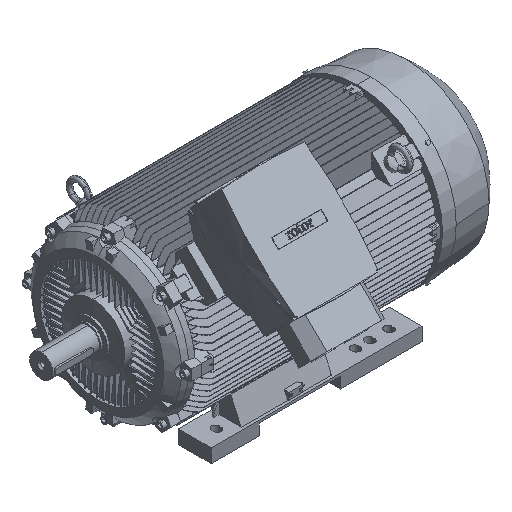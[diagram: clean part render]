
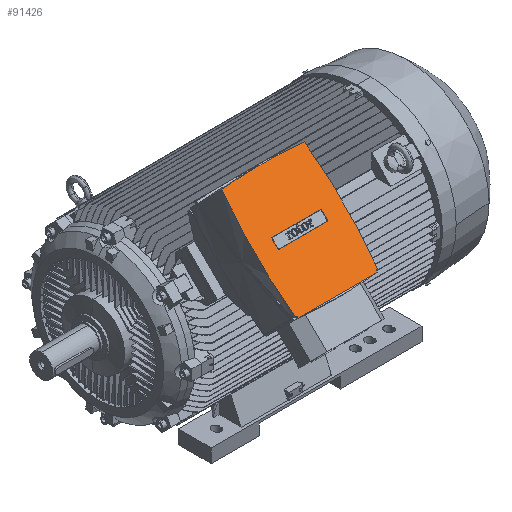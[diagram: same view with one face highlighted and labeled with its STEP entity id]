
A CAD part, isometric view. The second image highlights one B-rep face of the part: STEP entity #91426.
In plain terms, the highlighted planar face has unit normal (0, -0.707, 0.707).
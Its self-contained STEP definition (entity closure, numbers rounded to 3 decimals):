
#11 = VECTOR ( 'NONE', #14089, 1000. ) ;
#233 = LINE ( 'NONE', #12937, #2497 ) ;
#1615 = EDGE_CURVE ( 'NONE', #85980, #37499, #39676, .T. ) ;
#2497 = VECTOR ( 'NONE', #56583, 1000. ) ;
#2660 = VERTEX_POINT ( 'NONE', #31054 ) ;
#3291 = CIRCLE ( 'NONE', #24230, 1724.8 ) ;
#3695 = EDGE_CURVE ( 'NONE', #63485, #86808, #38859, .T. ) ;
#4154 = CARTESIAN_POINT ( 'NONE',  ( 245., -432.396, 366.635 ) ) ;
#5257 = CIRCLE ( 'NONE', #16909, 2020.86 ) ;
#5658 = DIRECTION ( 'NONE',  ( -1., 0., 0. ) ) ;
#6164 = VERTEX_POINT ( 'NONE', #84079 ) ;
#6724 = EDGE_CURVE ( 'NONE', #62580, #91029, #3291, .T. ) ;
#7499 = CARTESIAN_POINT ( 'NONE',  ( 100., -554.578, 244.453 ) ) ;
#8530 = CARTESIAN_POINT ( 'NONE',  ( 335., -432.396, 366.635 ) ) ;
#10706 = CARTESIAN_POINT ( 'NONE',  ( 390., -554.578, 244.453 ) ) ;
#12237 = AXIS2_PLACEMENT_3D ( 'NONE', #47653, #76095, #25231 ) ;
#12413 = LINE ( 'NONE', #47461, #33643 ) ;
#12937 = CARTESIAN_POINT ( 'NONE',  ( 245., -407.647, 391.384 ) ) ;
#14089 = DIRECTION ( 'NONE',  ( 0., -0.707, -0.707 ) ) ;
#14330 = CIRCLE ( 'NONE', #41366, 2020.86 ) ;
#15614 = ORIENTED_EDGE ( 'NONE', *, *, #85913, .T. ) ;
#15803 = ORIENTED_EDGE ( 'NONE', *, *, #91983, .F. ) ;
#15908 = CIRCLE ( 'NONE', #79010, 2020.86 ) ;
#16312 = EDGE_LOOP ( 'NONE', ( #78104, #22473, #86305, #22415, #62655, #52825, #57914, #15803, #23387 ) ) ;
#16452 = DIRECTION ( 'NONE',  ( 0., 0.707, 0.707 ) ) ;
#16759 = DIRECTION ( 'NONE',  ( 0., 0.707, -0.707 ) ) ;
#16909 = AXIS2_PLACEMENT_3D ( 'NONE', #62510, #20705, #48164 ) ;
#18103 = DIRECTION ( 'NONE',  ( 0., 0.707, 0.707 ) ) ;
#18182 = DIRECTION ( 'NONE',  ( 0., 0.707, 0.707 ) ) ;
#19737 = PLANE ( 'NONE',  #80201 ) ;
#20705 = DIRECTION ( 'NONE',  ( 0., 0.707, -0.707 ) ) ;
#21804 = VECTOR ( 'NONE', #18103, 1000. ) ;
#22415 = ORIENTED_EDGE ( 'NONE', *, *, #6724, .F. ) ;
#22473 = ORIENTED_EDGE ( 'NONE', *, *, #3695, .T. ) ;
#23387 = ORIENTED_EDGE ( 'NONE', *, *, #57135, .T. ) ;
#23593 = CARTESIAN_POINT ( 'NONE',  ( 245., -1710.746, -911.715 ) ) ;
#24230 = AXIS2_PLACEMENT_3D ( 'NONE', #38973, #16759, #16452 ) ;
#25231 = DIRECTION ( 'NONE',  ( 0., 0.707, 0.707 ) ) ;
#26759 = VERTEX_POINT ( 'NONE', #8530 ) ;
#27966 = ORIENTED_EDGE ( 'NONE', *, *, #1615, .T. ) ;
#28182 = CARTESIAN_POINT ( 'NONE',  ( 93.98, -554.265, 244.766 ) ) ;
#28243 = CARTESIAN_POINT ( 'NONE',  ( 390., -558.614, 240.416 ) ) ;
#30097 = EDGE_CURVE ( 'NONE', #81364, #62580, #14330, .T. ) ;
#30421 = CARTESIAN_POINT ( 'NONE',  ( 335., -416.486, 382.545 ) ) ;
#30964 = CARTESIAN_POINT ( 'NONE',  ( 155., -416.486, 382.545 ) ) ;
#30981 = ORIENTED_EDGE ( 'NONE', *, *, #68906, .T. ) ;
#31054 = CARTESIAN_POINT ( 'NONE',  ( 335., -407.647, 391.384 ) ) ;
#33227 = DIRECTION ( 'NONE',  ( 0., -0.707, 0.707 ) ) ;
#33643 = VECTOR ( 'NONE', #33762, 1000. ) ;
#33762 = DIRECTION ( 'NONE',  ( 1., 0., 0. ) ) ;
#36644 = VERTEX_POINT ( 'NONE', #73491 ) ;
#36805 = CARTESIAN_POINT ( 'NONE',  ( 245., -1710.746, -911.715 ) ) ;
#37008 = VERTEX_POINT ( 'NONE', #28182 ) ;
#37266 = DIRECTION ( 'NONE',  ( 0., -0.707, -0.707 ) ) ;
#37499 = VERTEX_POINT ( 'NONE', #55827 ) ;
#38512 = CIRCLE ( 'NONE', #64522, 2020.86 ) ;
#38791 = CIRCLE ( 'NONE', #12237, 1724.8 ) ;
#38859 = LINE ( 'NONE', #60906, #77951 ) ;
#38973 = CARTESIAN_POINT ( 'NONE',  ( -1318.3, -420.021, 379.009 ) ) ;
#39676 = LINE ( 'NONE', #30964, #21804 ) ;
#40444 = DIRECTION ( 'NONE',  ( 0., 0.707, -0.707 ) ) ;
#41366 = AXIS2_PLACEMENT_3D ( 'NONE', #23593, #80659, #44511 ) ;
#41688 = LINE ( 'NONE', #30421, #63965 ) ;
#43540 = CARTESIAN_POINT ( 'NONE',  ( 396.02, -554.265, 244.766 ) ) ;
#44511 = DIRECTION ( 'NONE',  ( 0., 0.707, 0.707 ) ) ;
#46673 = CARTESIAN_POINT ( 'NONE',  ( 245., 870.703, 1669.734 ) ) ;
#47461 = CARTESIAN_POINT ( 'NONE',  ( 245., -558.614, 240.416 ) ) ;
#47653 = CARTESIAN_POINT ( 'NONE',  ( 1808.3, -420.021, 379.009 ) ) ;
#47866 = EDGE_CURVE ( 'NONE', #36644, #63485, #12413, .T. ) ;
#47867 = FACE_BOUND ( 'NONE', #62775, .T. ) ;
#48164 = DIRECTION ( 'NONE',  ( 0., 0.707, 0.707 ) ) ;
#48782 = VERTEX_POINT ( 'NONE', #54775 ) ;
#52521 = LINE ( 'NONE', #7499, #11 ) ;
#52825 = ORIENTED_EDGE ( 'NONE', *, *, #76866, .F. ) ;
#54775 = CARTESIAN_POINT ( 'NONE',  ( 100., -554.578, 244.453 ) ) ;
#55309 = CARTESIAN_POINT ( 'NONE',  ( 155., -432.396, 366.635 ) ) ;
#55343 = EDGE_CURVE ( 'NONE', #91029, #86808, #38512, .T. ) ;
#55827 = CARTESIAN_POINT ( 'NONE',  ( 155., -407.647, 391.384 ) ) ;
#56583 = DIRECTION ( 'NONE',  ( 1., 0., 0. ) ) ;
#57135 = EDGE_CURVE ( 'NONE', #48782, #36644, #52521, .T. ) ;
#57914 = ORIENTED_EDGE ( 'NONE', *, *, #83562, .F. ) ;
#59225 = DIRECTION ( 'NONE',  ( 0., 0.707, -0.707 ) ) ;
#60224 = VECTOR ( 'NONE', #5658, 1000. ) ;
#60906 = CARTESIAN_POINT ( 'NONE',  ( 390., -558.614, 240.416 ) ) ;
#62510 = CARTESIAN_POINT ( 'NONE',  ( 245., 870.703, 1669.734 ) ) ;
#62560 = CARTESIAN_POINT ( 'NONE',  ( 245., -281.782, 517.249 ) ) ;
#62580 = VERTEX_POINT ( 'NONE', #76304 ) ;
#62655 = ORIENTED_EDGE ( 'NONE', *, *, #30097, .F. ) ;
#62775 = EDGE_LOOP ( 'NONE', ( #30981, #82575, #15614, #27966 ) ) ;
#63485 = VERTEX_POINT ( 'NONE', #28243 ) ;
#63965 = VECTOR ( 'NONE', #37266, 1000. ) ;
#64522 = AXIS2_PLACEMENT_3D ( 'NONE', #46673, #40444, #82204 ) ;
#68906 = EDGE_CURVE ( 'NONE', #37499, #2660, #233, .T. ) ;
#69097 = DIRECTION ( 'NONE',  ( 0., -0.707, -0.707 ) ) ;
#69718 = CARTESIAN_POINT ( 'NONE',  ( 245., -416.486, 382.545 ) ) ;
#73491 = CARTESIAN_POINT ( 'NONE',  ( 100., -558.614, 240.416 ) ) ;
#76095 = DIRECTION ( 'NONE',  ( 0., 0.707, -0.707 ) ) ;
#76304 = CARTESIAN_POINT ( 'NONE',  ( 396.02, -285.778, 513.253 ) ) ;
#76866 = EDGE_CURVE ( 'NONE', #6164, #81364, #15908, .T. ) ;
#77951 = VECTOR ( 'NONE', #18182, 1000. ) ;
#78104 = ORIENTED_EDGE ( 'NONE', *, *, #47866, .T. ) ;
#79010 = AXIS2_PLACEMENT_3D ( 'NONE', #36805, #59225, #87919 ) ;
#80180 = EDGE_CURVE ( 'NONE', #2660, #26759, #41688, .T. ) ;
#80201 = AXIS2_PLACEMENT_3D ( 'NONE', #69718, #33227, #69097 ) ;
#80659 = DIRECTION ( 'NONE',  ( 0., 0.707, -0.707 ) ) ;
#81364 = VERTEX_POINT ( 'NONE', #62560 ) ;
#82204 = DIRECTION ( 'NONE',  ( 0., 0.707, 0.707 ) ) ;
#82575 = ORIENTED_EDGE ( 'NONE', *, *, #80180, .T. ) ;
#83562 = EDGE_CURVE ( 'NONE', #37008, #6164, #38791, .T. ) ;
#84079 = CARTESIAN_POINT ( 'NONE',  ( 93.98, -285.778, 513.253 ) ) ;
#85913 = EDGE_CURVE ( 'NONE', #26759, #85980, #90281, .T. ) ;
#85980 = VERTEX_POINT ( 'NONE', #55309 ) ;
#86305 = ORIENTED_EDGE ( 'NONE', *, *, #55343, .F. ) ;
#86808 = VERTEX_POINT ( 'NONE', #10706 ) ;
#87919 = DIRECTION ( 'NONE',  ( 0., 0.707, 0.707 ) ) ;
#89106 = FACE_OUTER_BOUND ( 'NONE', #16312, .T. ) ;
#90281 = LINE ( 'NONE', #4154, #60224 ) ;
#91029 = VERTEX_POINT ( 'NONE', #43540 ) ;
#91426 = ADVANCED_FACE ( 'NONE', ( #47867, #89106 ), #19737, .T. ) ;
#91983 = EDGE_CURVE ( 'NONE', #48782, #37008, #5257, .T. ) ;
